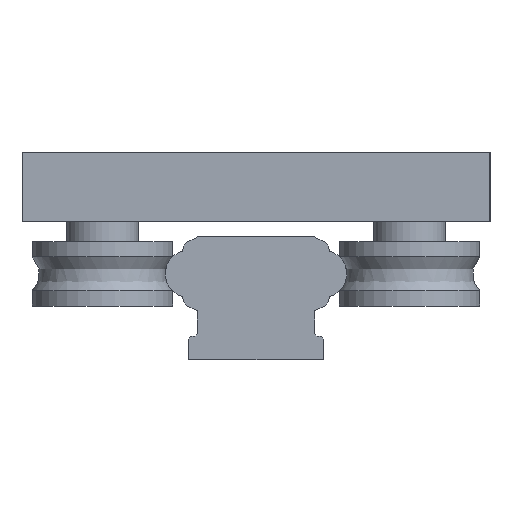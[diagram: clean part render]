
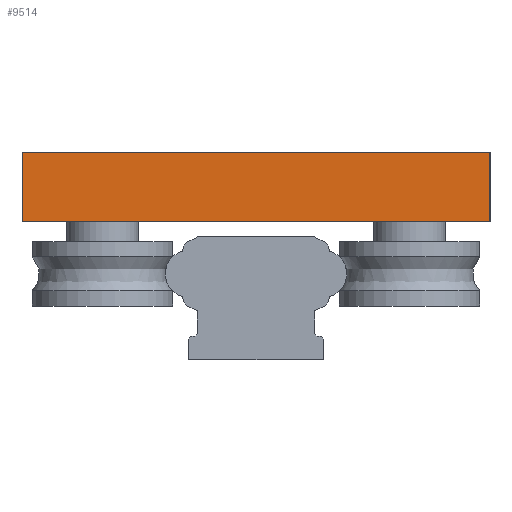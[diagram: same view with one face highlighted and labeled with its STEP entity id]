
A CAD part, left-side view. The second image highlights one B-rep face of the part: STEP entity #9514.
In plain terms, the highlighted planar face has unit normal (-1, 0, 0).
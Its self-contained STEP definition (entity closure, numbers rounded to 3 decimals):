
#9334=CARTESIAN_POINT('',(0.0,-40.0,20.8));
#9335=VERTEX_POINT('',#9334);
#9342=CARTESIAN_POINT('',(0.0,-40.0,9.));
#9343=VERTEX_POINT('',#9342);
#9344=CARTESIAN_POINT('',(0.0,-40.0,20.8));
#9345=DIRECTION('',(0.0,0.0,-1.0));
#9346=VECTOR('',#9345,11.8);
#9347=LINE('',#9344,#9346);
#9348=EDGE_CURVE('',#9335,#9343,#9347,.T.);
#9372=CARTESIAN_POINT('',(0.0,40.0,20.8));
#9373=VERTEX_POINT('',#9372);
#9380=CARTESIAN_POINT('',(0.0,40.0,20.8));
#9381=DIRECTION('',(0.0,-1.0,0.0));
#9382=VECTOR('',#9381,80.0);
#9383=LINE('',#9380,#9382);
#9384=EDGE_CURVE('',#9373,#9335,#9383,.T.);
#9433=CARTESIAN_POINT('',(0.0,40.0,9.));
#9434=VERTEX_POINT('',#9433);
#9441=CARTESIAN_POINT('',(0.0,40.0,9.));
#9442=DIRECTION('',(0.0,0.0,1.0));
#9443=VECTOR('',#9442,11.8);
#9444=LINE('',#9441,#9443);
#9445=EDGE_CURVE('',#9434,#9373,#9444,.T.);
#9463=CARTESIAN_POINT('',(0.0,-40.0,9.));
#9464=DIRECTION('',(0.0,1.0,0.0));
#9465=VECTOR('',#9464,80.0);
#9466=LINE('',#9463,#9465);
#9467=EDGE_CURVE('',#9343,#9434,#9466,.T.);
#9503=CARTESIAN_POINT('',(0.0,0.0,14.9));
#9504=DIRECTION('',(1.0,0.0,0.0));
#9505=DIRECTION('',(0.0,0.0,-1.0));
#9506=AXIS2_PLACEMENT_3D('',#9503,#9504,#9505);
#9507=PLANE('',#9506);
#9508=ORIENTED_EDGE('',*,*,#9467,.F.);
#9509=ORIENTED_EDGE('',*,*,#9348,.F.);
#9510=ORIENTED_EDGE('',*,*,#9384,.F.);
#9511=ORIENTED_EDGE('',*,*,#9445,.F.);
#9512=EDGE_LOOP('',(#9508,#9509,#9510,#9511));
#9513=FACE_OUTER_BOUND('',#9512,.T.);
#9514=ADVANCED_FACE('',(#9513),#9507,.F.);
